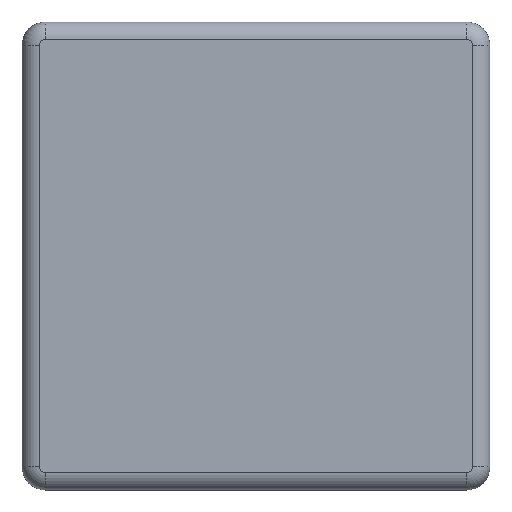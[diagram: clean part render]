
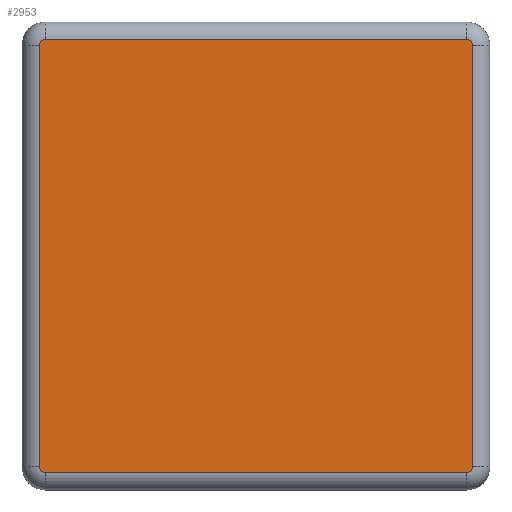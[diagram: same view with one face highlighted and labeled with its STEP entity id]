
A CAD part, top view. The second image highlights one B-rep face of the part: STEP entity #2953.
In plain terms, the highlighted planar face has unit normal (0, 0, 1).
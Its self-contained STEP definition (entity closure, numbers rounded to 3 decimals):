
#168 = VERTEX_POINT ( 'NONE', #5277 ) ;
#226 = VERTEX_POINT ( 'NONE', #5594 ) ;
#326 = DIRECTION ( 'NONE',  ( 1., 0., 0. ) ) ;
#355 = CARTESIAN_POINT ( 'NONE',  ( -36., -36., 0. ) ) ;
#378 = VERTEX_POINT ( 'NONE', #2145 ) ;
#534 = EDGE_CURVE ( 'NONE', #885, #5041, #2003, .T. ) ;
#603 = AXIS2_PLACEMENT_3D ( 'NONE', #4343, #5157, #326 ) ;
#664 = VERTEX_POINT ( 'NONE', #2101 ) ;
#788 = EDGE_CURVE ( 'NONE', #664, #1579, #4820, .T. ) ;
#834 = VECTOR ( 'NONE', #2689, 1000. ) ;
#885 = VERTEX_POINT ( 'NONE', #3191 ) ;
#886 = CARTESIAN_POINT ( 'NONE',  ( 37., -36., 0. ) ) ;
#918 = VECTOR ( 'NONE', #5365, 1000. ) ;
#942 = ORIENTED_EDGE ( 'NONE', *, *, #1031, .F. ) ;
#1031 = EDGE_CURVE ( 'NONE', #378, #2135, #4076, .T. ) ;
#1143 = CARTESIAN_POINT ( 'NONE',  ( -36., 37., 0. ) ) ;
#1230 = LINE ( 'NONE', #1757, #5678 ) ;
#1289 = FACE_OUTER_BOUND ( 'NONE', #4078, .T. ) ;
#1335 = DIRECTION ( 'NONE',  ( 0., -1., 0. ) ) ;
#1356 = CARTESIAN_POINT ( 'NONE',  ( 36., -36., 0. ) ) ;
#1371 = ORIENTED_EDGE ( 'NONE', *, *, #534, .F. ) ;
#1483 = DIRECTION ( 'NONE',  ( 1., 0., 0. ) ) ;
#1579 = VERTEX_POINT ( 'NONE', #3450 ) ;
#1673 = ORIENTED_EDGE ( 'NONE', *, *, #5180, .T. ) ;
#1744 = DIRECTION ( 'NONE',  ( 0., 0., -1. ) ) ;
#1748 = DIRECTION ( 'NONE',  ( 1., 0., 0. ) ) ;
#1757 = CARTESIAN_POINT ( 'NONE',  ( -36., 37., 0. ) ) ;
#1953 = CIRCLE ( 'NONE', #4850, 1. ) ;
#2003 = CIRCLE ( 'NONE', #2753, 1. ) ;
#2101 = CARTESIAN_POINT ( 'NONE',  ( -36., -37., 0. ) ) ;
#2102 = ORIENTED_EDGE ( 'NONE', *, *, #3893, .T. ) ;
#2135 = VERTEX_POINT ( 'NONE', #1143 ) ;
#2145 = CARTESIAN_POINT ( 'NONE',  ( -37., 36., 0. ) ) ;
#2160 = CARTESIAN_POINT ( 'NONE',  ( -36., -36., 0. ) ) ;
#2398 = VECTOR ( 'NONE', #1335, 1000. ) ;
#2512 = LINE ( 'NONE', #4788, #2398 ) ;
#2579 = PLANE ( 'NONE',  #2603 ) ;
#2603 = AXIS2_PLACEMENT_3D ( 'NONE', #355, #3987, #4772 ) ;
#2689 = DIRECTION ( 'NONE',  ( 0., 1., 0. ) ) ;
#2711 = CARTESIAN_POINT ( 'NONE',  ( -36., -37., 0. ) ) ;
#2746 = ORIENTED_EDGE ( 'NONE', *, *, #5735, .T. ) ;
#2753 = AXIS2_PLACEMENT_3D ( 'NONE', #5544, #3221, #1483 ) ;
#2773 = AXIS2_PLACEMENT_3D ( 'NONE', #2160, #1744, #3077 ) ;
#2953 = ADVANCED_FACE ( 'NONE', ( #1289 ), #2579, .T. ) ;
#3028 = ORIENTED_EDGE ( 'NONE', *, *, #3341, .T. ) ;
#3077 = DIRECTION ( 'NONE',  ( 1., 0., 0. ) ) ;
#3133 = LINE ( 'NONE', #886, #834 ) ;
#3191 = CARTESIAN_POINT ( 'NONE',  ( 36., 37., 0. ) ) ;
#3221 = DIRECTION ( 'NONE',  ( 0., 0., -1. ) ) ;
#3341 = EDGE_CURVE ( 'NONE', #885, #2135, #1230, .T. ) ;
#3344 = CARTESIAN_POINT ( 'NONE',  ( 37., 36., 0. ) ) ;
#3450 = CARTESIAN_POINT ( 'NONE',  ( -37., -36., 0. ) ) ;
#3893 = EDGE_CURVE ( 'NONE', #378, #1579, #2512, .T. ) ;
#3987 = DIRECTION ( 'NONE',  ( 0., 0., 1. ) ) ;
#4032 = ORIENTED_EDGE ( 'NONE', *, *, #788, .F. ) ;
#4076 = CIRCLE ( 'NONE', #603, 1. ) ;
#4078 = EDGE_LOOP ( 'NONE', ( #5596, #2746, #1371, #3028, #942, #2102, #4032, #1673 ) ) ;
#4343 = CARTESIAN_POINT ( 'NONE',  ( -36., 36., 0. ) ) ;
#4772 = DIRECTION ( 'NONE',  ( 1., 0., 0. ) ) ;
#4788 = CARTESIAN_POINT ( 'NONE',  ( -37., -36., 0. ) ) ;
#4820 = CIRCLE ( 'NONE', #2773, 1. ) ;
#4850 = AXIS2_PLACEMENT_3D ( 'NONE', #1356, #5759, #1748 ) ;
#5041 = VERTEX_POINT ( 'NONE', #3344 ) ;
#5157 = DIRECTION ( 'NONE',  ( 0., 0., -1. ) ) ;
#5180 = EDGE_CURVE ( 'NONE', #664, #226, #5789, .T. ) ;
#5241 = DIRECTION ( 'NONE',  ( -1., 0., 0. ) ) ;
#5277 = CARTESIAN_POINT ( 'NONE',  ( 37., -36., 0. ) ) ;
#5365 = DIRECTION ( 'NONE',  ( 1., 0., 0. ) ) ;
#5544 = CARTESIAN_POINT ( 'NONE',  ( 36., 36., 0. ) ) ;
#5594 = CARTESIAN_POINT ( 'NONE',  ( 36., -37., 0. ) ) ;
#5596 = ORIENTED_EDGE ( 'NONE', *, *, #5699, .F. ) ;
#5678 = VECTOR ( 'NONE', #5241, 1000. ) ;
#5699 = EDGE_CURVE ( 'NONE', #168, #226, #1953, .T. ) ;
#5735 = EDGE_CURVE ( 'NONE', #168, #5041, #3133, .T. ) ;
#5759 = DIRECTION ( 'NONE',  ( 0., 0., -1. ) ) ;
#5789 = LINE ( 'NONE', #2711, #918 ) ;
